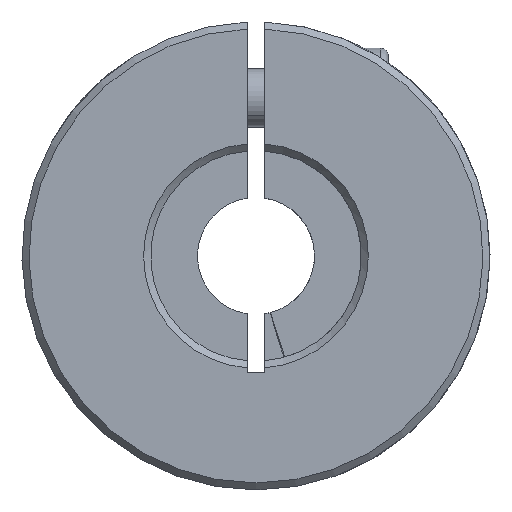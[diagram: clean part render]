
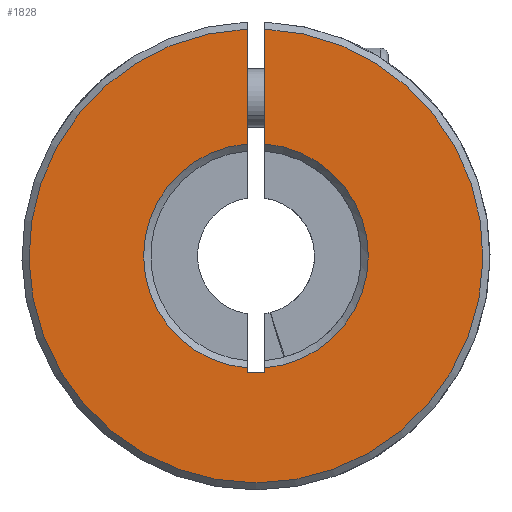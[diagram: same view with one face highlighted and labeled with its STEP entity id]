
A CAD part, front view. The second image highlights one B-rep face of the part: STEP entity #1828.
In plain terms, the highlighted planar face has unit normal (0, -1, 0).
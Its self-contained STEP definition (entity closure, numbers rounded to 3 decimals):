
#30 = EDGE_CURVE ( 'NONE', #2492, #643, #1232, .T. ) ;
#39 = VECTOR ( 'NONE', #789, 1000. ) ;
#54 = AXIS2_PLACEMENT_3D ( 'NONE', #4830, #2001, #3408 ) ;
#127 = FACE_OUTER_BOUND ( 'NONE', #5097, .T. ) ;
#354 = DIRECTION ( 'NONE',  ( 0., 1., 0. ) ) ;
#401 = EDGE_CURVE ( 'NONE', #3869, #1657, #2605, .T. ) ;
#500 = ORIENTED_EDGE ( 'NONE', *, *, #401, .T. ) ;
#643 = VERTEX_POINT ( 'NONE', #5678 ) ;
#780 = EDGE_CURVE ( 'NONE', #1657, #4786, #4452, .T. ) ;
#789 = DIRECTION ( 'NONE',  ( -1., 0., 0. ) ) ;
#995 = VERTEX_POINT ( 'NONE', #4177 ) ;
#1142 = AXIS2_PLACEMENT_3D ( 'NONE', #5425, #1732, #3015 ) ;
#1232 = CIRCLE ( 'NONE', #1142, 19.4 ) ;
#1268 = ORIENTED_EDGE ( 'NONE', *, *, #30, .T. ) ;
#1365 = DIRECTION ( 'NONE',  ( 0., 0., 1. ) ) ;
#1380 = ORIENTED_EDGE ( 'NONE', *, *, #780, .T. ) ;
#1383 = LINE ( 'NONE', #4647, #4839 ) ;
#1405 = EDGE_CURVE ( 'NONE', #995, #2492, #3255, .T. ) ;
#1485 = CARTESIAN_POINT ( 'NONE',  ( -0.75, -25., 19.385 ) ) ;
#1548 = ORIENTED_EDGE ( 'NONE', *, *, #5172, .T. ) ;
#1657 = VERTEX_POINT ( 'NONE', #2708 ) ;
#1694 = CARTESIAN_POINT ( 'NONE',  ( -0.75, -25., -9.571 ) ) ;
#1732 = DIRECTION ( 'NONE',  ( 0., -1., 0. ) ) ;
#1774 = ORIENTED_EDGE ( 'NONE', *, *, #1405, .T. ) ;
#1828 = ADVANCED_FACE ( 'NONE', ( #127 ), #4281, .F. ) ;
#1881 = CARTESIAN_POINT ( 'NONE',  ( 0., -25., 0. ) ) ;
#1943 = DIRECTION ( 'NONE',  ( 0., 0., -1. ) ) ;
#2001 = DIRECTION ( 'NONE',  ( 0., 1., 0. ) ) ;
#2102 = AXIS2_PLACEMENT_3D ( 'NONE', #1881, #5991, #4698 ) ;
#2160 = DIRECTION ( 'NONE',  ( 0., 0., 1. ) ) ;
#2417 = VECTOR ( 'NONE', #2160, 1000. ) ;
#2492 = VERTEX_POINT ( 'NONE', #1485 ) ;
#2564 = DIRECTION ( 'NONE',  ( 0., 0., 1. ) ) ;
#2594 = LINE ( 'NONE', #4446, #2417 ) ;
#2605 = LINE ( 'NONE', #5380, #4397 ) ;
#2708 = CARTESIAN_POINT ( 'NONE',  ( 0.75, -25., -10. ) ) ;
#2832 = CARTESIAN_POINT ( 'NONE',  ( -0.75, -25., -10. ) ) ;
#2901 = CARTESIAN_POINT ( 'NONE',  ( 0., -25., 0. ) ) ;
#3015 = DIRECTION ( 'NONE',  ( 0., 0., 1. ) ) ;
#3035 = EDGE_CURVE ( 'NONE', #5460, #995, #5016, .T. ) ;
#3054 = DIRECTION ( 'NONE',  ( 0., 0., -1. ) ) ;
#3237 = CARTESIAN_POINT ( 'NONE',  ( -0.75, -25., -10. ) ) ;
#3255 = LINE ( 'NONE', #2832, #5893 ) ;
#3382 = ORIENTED_EDGE ( 'NONE', *, *, #3035, .T. ) ;
#3408 = DIRECTION ( 'NONE',  ( 0., 0., 1. ) ) ;
#3732 = EDGE_CURVE ( 'NONE', #3752, #3869, #5519, .T. ) ;
#3752 = VERTEX_POINT ( 'NONE', #5306 ) ;
#3829 = ORIENTED_EDGE ( 'NONE', *, *, #3732, .T. ) ;
#3869 = VERTEX_POINT ( 'NONE', #5576 ) ;
#4053 = CARTESIAN_POINT ( 'NONE',  ( -0.75, -25., -10. ) ) ;
#4090 = EDGE_CURVE ( 'NONE', #643, #3752, #1383, .T. ) ;
#4177 = CARTESIAN_POINT ( 'NONE',  ( -0.75, -25., 9.571 ) ) ;
#4281 = PLANE ( 'NONE',  #54 ) ;
#4397 = VECTOR ( 'NONE', #3054, 1000. ) ;
#4446 = CARTESIAN_POINT ( 'NONE',  ( -0.75, -25., -10. ) ) ;
#4452 = LINE ( 'NONE', #4053, #39 ) ;
#4647 = CARTESIAN_POINT ( 'NONE',  ( 0.75, -25., -10. ) ) ;
#4698 = DIRECTION ( 'NONE',  ( 0., 0., 1. ) ) ;
#4786 = VERTEX_POINT ( 'NONE', #3237 ) ;
#4830 = CARTESIAN_POINT ( 'NONE',  ( 0., -25., 0. ) ) ;
#4839 = VECTOR ( 'NONE', #1943, 1000. ) ;
#5016 = CIRCLE ( 'NONE', #2102, 9.6 ) ;
#5097 = EDGE_LOOP ( 'NONE', ( #5973, #3829, #500, #1380, #1548, #3382, #1774, #1268 ) ) ;
#5172 = EDGE_CURVE ( 'NONE', #4786, #5460, #2594, .T. ) ;
#5306 = CARTESIAN_POINT ( 'NONE',  ( 0.75, -25., 9.571 ) ) ;
#5380 = CARTESIAN_POINT ( 'NONE',  ( 0.75, -25., -10. ) ) ;
#5425 = CARTESIAN_POINT ( 'NONE',  ( 0., -25., 0. ) ) ;
#5460 = VERTEX_POINT ( 'NONE', #1694 ) ;
#5519 = CIRCLE ( 'NONE', #5810, 9.6 ) ;
#5576 = CARTESIAN_POINT ( 'NONE',  ( 0.75, -25., -9.571 ) ) ;
#5678 = CARTESIAN_POINT ( 'NONE',  ( 0.75, -25., 19.385 ) ) ;
#5810 = AXIS2_PLACEMENT_3D ( 'NONE', #2901, #354, #2564 ) ;
#5893 = VECTOR ( 'NONE', #1365, 1000. ) ;
#5973 = ORIENTED_EDGE ( 'NONE', *, *, #4090, .T. ) ;
#5991 = DIRECTION ( 'NONE',  ( 0., 1., 0. ) ) ;
